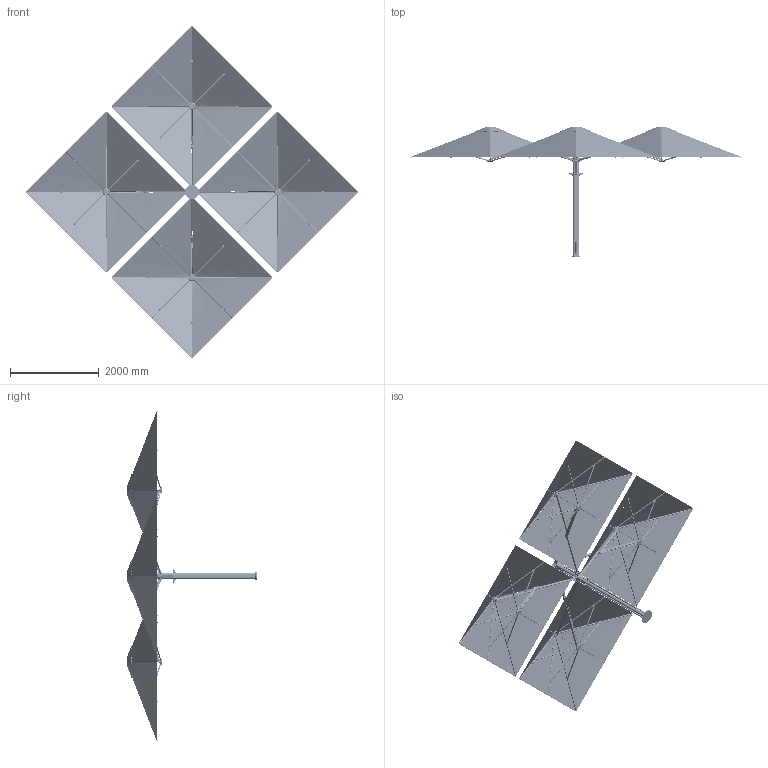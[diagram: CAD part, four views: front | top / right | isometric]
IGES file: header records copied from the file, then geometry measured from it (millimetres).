
Start section: SolidWorks IGES file using analytic representation for surfaces
Global section: file name: S:\SHADE UMBRELLAS\3. CAD Model Drawings. Data Sheets\SHADOWSPEC Unity & Serenity\IGES Files\2.5M CNR SQ Quattro.IGS; native system: SolidWorks 2017; preprocessor: SolidWorks 2017; author: Peter; date: 200617.121648; units: millimetre
Bounding box: 7479.23 x 2943.5 x 7479.23 mm (x, y, z)
Surface area: 75672520.6 mm2 (no closed solid volume)
Topology: 0 solids, 0 shells, 5624 faces, 72559 edges, 72503 vertices
Faces by surface type: bspline 3037, revolution 2587
